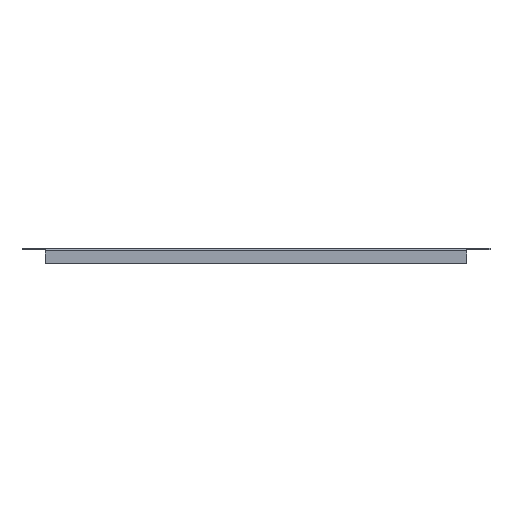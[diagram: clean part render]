
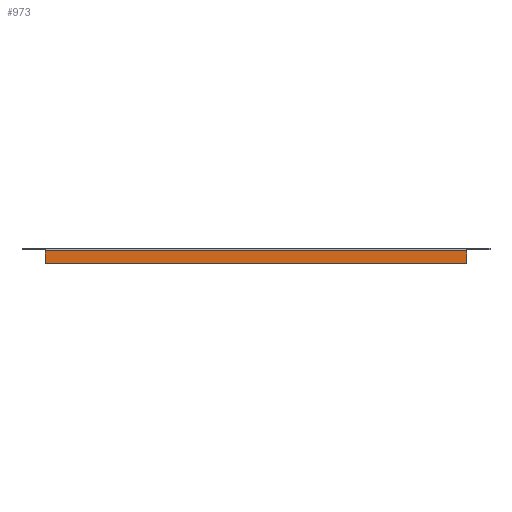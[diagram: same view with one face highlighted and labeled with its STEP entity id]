
A CAD part, front view. The second image highlights one B-rep face of the part: STEP entity #973.
In plain terms, the highlighted planar face has unit normal (0, -1, 0).
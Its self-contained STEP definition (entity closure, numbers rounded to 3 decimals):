
#47 = VERTEX_POINT ( 'NONE', #466 ) ;
#119 = ORIENTED_EDGE ( 'NONE', *, *, #904, .F. ) ;
#120 = ORIENTED_EDGE ( 'NONE', *, *, #984, .F. ) ;
#131 = ORIENTED_EDGE ( 'NONE', *, *, #905, .F. ) ;
#133 = VERTEX_POINT ( 'NONE', #280 ) ;
#146 = ORIENTED_EDGE ( 'NONE', *, *, #895, .F. ) ;
#147 = VERTEX_POINT ( 'NONE', #351 ) ;
#148 = VERTEX_POINT ( 'NONE', #358 ) ;
#207 = DIRECTION ( 'NONE',  ( 1., 0., 0. ) ) ;
#210 = CARTESIAN_POINT ( 'NONE',  ( 209.5, -74.5, -1.2 ) ) ;
#212 = LINE ( 'NONE', #210, #1161 ) ;
#280 = CARTESIAN_POINT ( 'NONE',  ( -209.5, -74.5, -1.2 ) ) ;
#296 = PLANE ( 'NONE',  #1131 ) ;
#351 = CARTESIAN_POINT ( 'NONE',  ( -209.5, -74.5, -13.8 ) ) ;
#358 = CARTESIAN_POINT ( 'NONE',  ( 209.5, -74.5, -13.8 ) ) ;
#455 = CARTESIAN_POINT ( 'NONE',  ( 209.5, -74.5, 0. ) ) ;
#466 = CARTESIAN_POINT ( 'NONE',  ( 209.5, -74.5, -1.2 ) ) ;
#472 = DIRECTION ( 'NONE',  ( 0., 0., 1. ) ) ;
#530 = DIRECTION ( 'NONE',  ( -1., 0., 0. ) ) ;
#557 = CARTESIAN_POINT ( 'NONE',  ( 209.5, -74.5, -13.8 ) ) ;
#562 = LINE ( 'NONE', #557, #1097 ) ;
#582 = LINE ( 'NONE', #455, #1033 ) ;
#584 = DIRECTION ( 'NONE',  ( 0., 0., -1. ) ) ;
#650 = DIRECTION ( 'NONE',  ( 0., 1., 0. ) ) ;
#681 = CARTESIAN_POINT ( 'NONE',  ( -209.5, -74.5, -13.8 ) ) ;
#683 = LINE ( 'NONE', #681, #1090 ) ;
#690 = DIRECTION ( 'NONE',  ( 0., 0., 1. ) ) ;
#815 = CARTESIAN_POINT ( 'NONE',  ( 209.5, -74.5, 0. ) ) ;
#832 = EDGE_LOOP ( 'NONE', ( #120, #146, #131, #119 ) ) ;
#895 = EDGE_CURVE ( 'NONE', #147, #133, #683, .T. ) ;
#904 = EDGE_CURVE ( 'NONE', #47, #148, #582, .T. ) ;
#905 = EDGE_CURVE ( 'NONE', #148, #147, #562, .T. ) ;
#973 = ADVANCED_FACE ( 'NONE', ( #1144 ), #296, .F. ) ;
#984 = EDGE_CURVE ( 'NONE', #133, #47, #212, .T. ) ;
#1033 = VECTOR ( 'NONE', #584, 1000. ) ;
#1090 = VECTOR ( 'NONE', #690, 1000. ) ;
#1097 = VECTOR ( 'NONE', #530, 1000. ) ;
#1131 = AXIS2_PLACEMENT_3D ( 'NONE', #815, #650, #472 ) ;
#1144 = FACE_OUTER_BOUND ( 'NONE', #832, .T. ) ;
#1161 = VECTOR ( 'NONE', #207, 1000. ) ;
